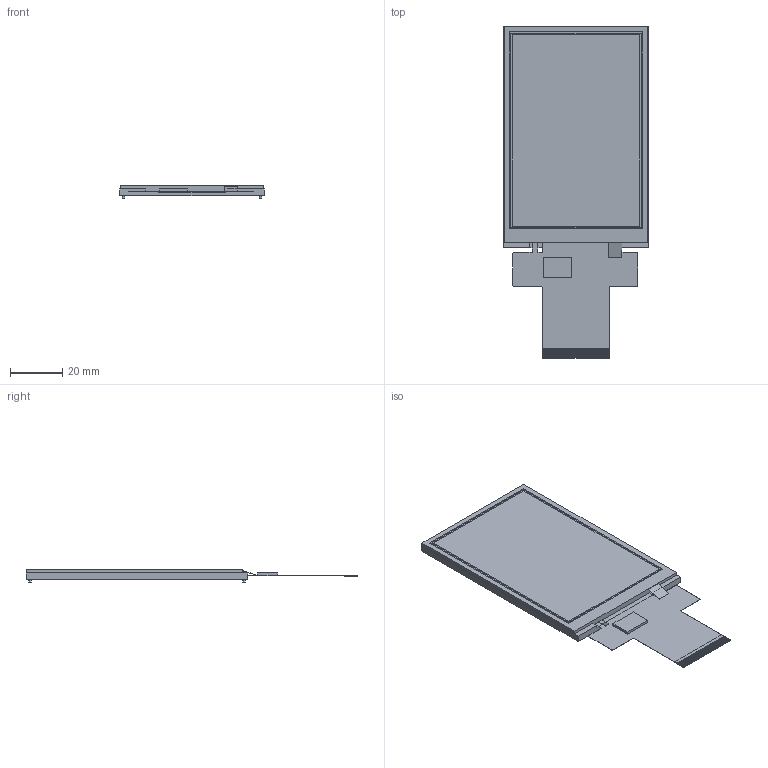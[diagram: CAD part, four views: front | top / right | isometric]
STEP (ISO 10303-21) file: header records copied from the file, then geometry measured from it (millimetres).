
FILE_DESCRIPTION (( 'STEP AP214' ), '1' );
FILE_NAME ('CFAF320480C7-035TR.STEP', '2022-12-29T20:51:41', ( '' ), ( '' ), 'SwSTEP 2.0', 'SolidWorks 2021', '' );
FILE_SCHEMA (( 'AUTOMOTIVE_DESIGN' ));
Length unit declared in the file: millimetre
Products named in the file (1): CFAF320480C7-035TR
Bounding box: 55.5 x 127.15 x 4.7 mm (x, y, z)
Volume: 17486.5 mm3; surface area: 13732.6 mm2
Topology: 52 solids, 52 shells, 379 faces, 809 edges, 542 vertices
Faces by surface type: plane 364, cylinder 15
Entity records: 14245 total; most frequent: CARTESIAN_POINT 1731, ORIENTED_EDGE 1618, DIRECTION 1599, EDGE_CURVE 809, VECTOR 779, LINE 779, VERTEX_POINT 542, AXIS2_PLACEMENT_3D 410
